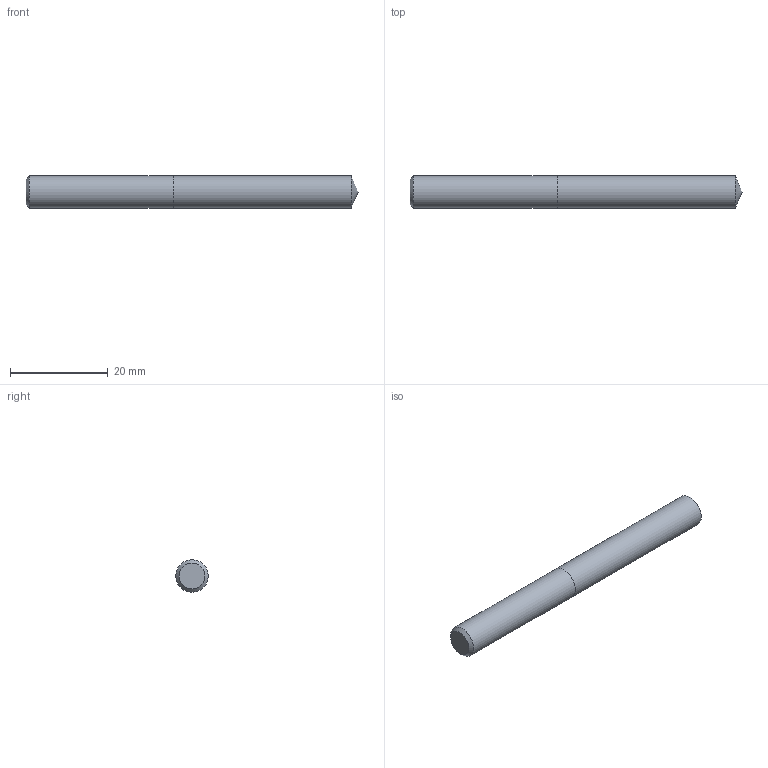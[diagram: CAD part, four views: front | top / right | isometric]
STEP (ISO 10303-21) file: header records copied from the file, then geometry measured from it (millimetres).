
FILE_DESCRIPTION (( 'STEP AP214' ), '1' );
FILE_NAME ('03-2323.STEP', '2022-06-03T06:12:44', ( 'USER' ), ( '' ), 'SwSTEP 2.0', 'SolidWorks 2018', '' );
FILE_SCHEMA (( 'AUTOMOTIVE_DESIGN' ));
Length unit declared in the file: inch
Products named in the file (1): 03-2323
Bounding box: 68.05 x 6.63 x 6.63 mm (x, y, z)
Volume: 2313 mm3; surface area: 1520.9 mm2
Topology: 2 solids, 2 shells, 7 faces, 11 edges, 7 vertices
Faces by surface type: plane 3, cylinder 2, cone 2
Full cylindrical faces by diameter (mm): 6.629 x2
Entity records: 214 total; most frequent: DIRECTION 26, CARTESIAN_POINT 18, AXIS2_PLACEMENT_3D 13, EDGE_LOOP 10, ORIENTED_EDGE 10, FACE_OUTER_BOUND 9, UNCERTAINTY_MEASURE_WITH_UNIT 7, ADVANCED_FACE 7
